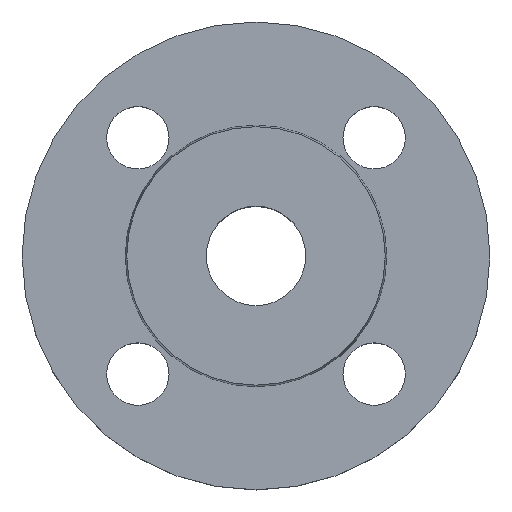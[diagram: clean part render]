
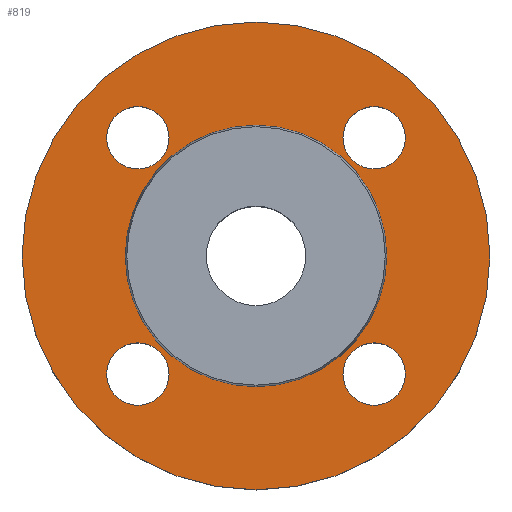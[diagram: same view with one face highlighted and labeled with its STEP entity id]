
A CAD part, top view. The second image highlights one B-rep face of the part: STEP entity #819.
In plain terms, the highlighted planar face has unit normal (0, 0, 1).
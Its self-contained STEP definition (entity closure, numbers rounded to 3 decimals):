
#5 = CIRCLE ( 'NONE', #367, 7. ) ;
#13 = CIRCLE ( 'NONE', #288, 7. ) ;
#30 = EDGE_LOOP ( 'NONE', ( #295, #296 ) ) ;
#56 = CARTESIAN_POINT ( 'NONE',  ( -33.517, 26.517, -2. ) ) ;
#71 = AXIS2_PLACEMENT_3D ( 'NONE', #694, #695, #698 ) ;
#85 = PLANE ( 'NONE',  #822 ) ;
#88 = FACE_OUTER_BOUND ( 'NONE', #30, .T. ) ;
#89 = FACE_BOUND ( 'NONE', #132, .T. ) ;
#90 = FACE_BOUND ( 'NONE', #443, .T. ) ;
#91 = FACE_BOUND ( 'NONE', #515, .T. ) ;
#94 = VERTEX_POINT ( 'NONE', #582 ) ;
#97 = FACE_BOUND ( 'NONE', #227, .T. ) ;
#98 = FACE_BOUND ( 'NONE', #401, .T. ) ;
#132 = EDGE_LOOP ( 'NONE', ( #291, #292 ) ) ;
#142 = VERTEX_POINT ( 'NONE', #597 ) ;
#149 = AXIS2_PLACEMENT_3D ( 'NONE', #753, #754, #755 ) ;
#170 = EDGE_CURVE ( 'NONE', #519, #531, #353, .T. ) ;
#189 = EDGE_CURVE ( 'NONE', #142, #502, #667, .T. ) ;
#227 = EDGE_LOOP ( 'NONE', ( #243, #244 ) ) ;
#236 = ORIENTED_EDGE ( 'NONE', *, *, #614, .T. ) ;
#237 = ORIENTED_EDGE ( 'NONE', *, *, #248, .T. ) ;
#239 = VERTEX_POINT ( 'NONE', #671 ) ;
#243 = ORIENTED_EDGE ( 'NONE', *, *, #364, .T. ) ;
#244 = ORIENTED_EDGE ( 'NONE', *, *, #670, .T. ) ;
#247 = ORIENTED_EDGE ( 'NONE', *, *, #189, .T. ) ;
#248 = EDGE_CURVE ( 'NONE', #480, #460, #13, .T. ) ;
#249 = EDGE_CURVE ( 'NONE', #531, #519, #425, .T. ) ;
#252 = EDGE_CURVE ( 'NONE', #416, #504, #445, .T. ) ;
#267 = DIRECTION ( 'NONE',  ( -1., 0., 0. ) ) ;
#269 = DIRECTION ( 'NONE',  ( 0., 0., -1. ) ) ;
#270 = CARTESIAN_POINT ( 'NONE',  ( 0., 0., -2. ) ) ;
#280 = ORIENTED_EDGE ( 'NONE', *, *, #442, .T. ) ;
#285 = DIRECTION ( 'NONE',  ( 1., 0., 0. ) ) ;
#286 = ORIENTED_EDGE ( 'NONE', *, *, #441, .T. ) ;
#287 = DIRECTION ( 'NONE',  ( 0., 0., -1. ) ) ;
#288 = AXIS2_PLACEMENT_3D ( 'NONE', #678, #679, #680 ) ;
#289 = CARTESIAN_POINT ( 'NONE',  ( -26.517, -26.517, -2. ) ) ;
#290 = ORIENTED_EDGE ( 'NONE', *, *, #447, .T. ) ;
#291 = ORIENTED_EDGE ( 'NONE', *, *, #249, .T. ) ;
#292 = ORIENTED_EDGE ( 'NONE', *, *, #170, .T. ) ;
#295 = ORIENTED_EDGE ( 'NONE', *, *, #252, .F. ) ;
#296 = ORIENTED_EDGE ( 'NONE', *, *, #712, .F. ) ;
#332 = CIRCLE ( 'NONE', #735, 7. ) ;
#336 = DIRECTION ( 'NONE',  ( 1., 0., 0. ) ) ;
#338 = CARTESIAN_POINT ( 'NONE',  ( 26.517, -26.517, -2. ) ) ;
#339 = DIRECTION ( 'NONE',  ( 0., 0., -1. ) ) ;
#348 = AXIS2_PLACEMENT_3D ( 'NONE', #270, #269, #267 ) ;
#353 = CIRCLE ( 'NONE', #453, 29.353 ) ;
#356 = AXIS2_PLACEMENT_3D ( 'NONE', #513, #797, #488 ) ;
#364 = EDGE_CURVE ( 'NONE', #239, #522, #689, .T. ) ;
#365 = CARTESIAN_POINT ( 'NONE',  ( 33.517, -26.517, -2. ) ) ;
#367 = AXIS2_PLACEMENT_3D ( 'NONE', #289, #287, #285 ) ;
#368 = CARTESIAN_POINT ( 'NONE',  ( 19.517, 26.517, -2. ) ) ;
#383 = CARTESIAN_POINT ( 'NONE',  ( 19.517, -26.517, -2. ) ) ;
#391 = AXIS2_PLACEMENT_3D ( 'NONE', #338, #339, #336 ) ;
#401 = EDGE_LOOP ( 'NONE', ( #236, #237 ) ) ;
#407 = CARTESIAN_POINT ( 'NONE',  ( -52.5, 0., -2. ) ) ;
#416 = VERTEX_POINT ( 'NONE', #801 ) ;
#419 = CIRCLE ( 'NONE', #391, 7. ) ;
#425 = CIRCLE ( 'NONE', #526, 29.353 ) ;
#427 = CARTESIAN_POINT ( 'NONE',  ( 29.353, 0., -2. ) ) ;
#437 = CARTESIAN_POINT ( 'NONE',  ( -33.517, -26.517, -2. ) ) ;
#441 = EDGE_CURVE ( 'NONE', #94, #458, #809, .T. ) ;
#442 = EDGE_CURVE ( 'NONE', #502, #142, #332, .T. ) ;
#443 = EDGE_LOOP ( 'NONE', ( #286, #290 ) ) ;
#445 = CIRCLE ( 'NONE', #71, 52.5 ) ;
#447 = EDGE_CURVE ( 'NONE', #458, #94, #477, .T. ) ;
#453 = AXIS2_PLACEMENT_3D ( 'NONE', #624, #625, #626 ) ;
#458 = VERTEX_POINT ( 'NONE', #368 ) ;
#460 = VERTEX_POINT ( 'NONE', #365 ) ;
#477 = CIRCLE ( 'NONE', #823, 7. ) ;
#480 = VERTEX_POINT ( 'NONE', #383 ) ;
#488 = DIRECTION ( 'NONE',  ( 1., 0., 0. ) ) ;
#502 = VERTEX_POINT ( 'NONE', #56 ) ;
#504 = VERTEX_POINT ( 'NONE', #407 ) ;
#513 = CARTESIAN_POINT ( 'NONE',  ( 26.517, 26.517, -2. ) ) ;
#515 = EDGE_LOOP ( 'NONE', ( #247, #280 ) ) ;
#518 = AXIS2_PLACEMENT_3D ( 'NONE', #629, #632, #633 ) ;
#519 = VERTEX_POINT ( 'NONE', #427 ) ;
#522 = VERTEX_POINT ( 'NONE', #437 ) ;
#526 = AXIS2_PLACEMENT_3D ( 'NONE', #681, #683, #684 ) ;
#531 = VERTEX_POINT ( 'NONE', #659 ) ;
#582 = CARTESIAN_POINT ( 'NONE',  ( 33.517, 26.517, -2. ) ) ;
#592 = CIRCLE ( 'NONE', #348, 52.5 ) ;
#597 = CARTESIAN_POINT ( 'NONE',  ( -19.517, 26.517, -2. ) ) ;
#614 = EDGE_CURVE ( 'NONE', #460, #480, #419, .T. ) ;
#624 = CARTESIAN_POINT ( 'NONE',  ( 0., 0., -2. ) ) ;
#625 = DIRECTION ( 'NONE',  ( 0., 0., -1. ) ) ;
#626 = DIRECTION ( 'NONE',  ( -1., 0., 0. ) ) ;
#629 = CARTESIAN_POINT ( 'NONE',  ( -26.517, 26.517, -2. ) ) ;
#632 = DIRECTION ( 'NONE',  ( 0., 0., -1. ) ) ;
#633 = DIRECTION ( 'NONE',  ( 1., 0., 0. ) ) ;
#659 = CARTESIAN_POINT ( 'NONE',  ( -29.353, 0., -2. ) ) ;
#667 = CIRCLE ( 'NONE', #518, 7. ) ;
#670 = EDGE_CURVE ( 'NONE', #522, #239, #5, .T. ) ;
#671 = CARTESIAN_POINT ( 'NONE',  ( -19.517, -26.517, -2. ) ) ;
#678 = CARTESIAN_POINT ( 'NONE',  ( 26.517, -26.517, -2. ) ) ;
#679 = DIRECTION ( 'NONE',  ( 0., 0., -1. ) ) ;
#680 = DIRECTION ( 'NONE',  ( 1., 0., 0. ) ) ;
#681 = CARTESIAN_POINT ( 'NONE',  ( 0., 0., -2. ) ) ;
#682 = DIRECTION ( 'NONE',  ( 1., 0., 0. ) ) ;
#683 = DIRECTION ( 'NONE',  ( 0., 0., -1. ) ) ;
#684 = DIRECTION ( 'NONE',  ( -1., 0., 0. ) ) ;
#689 = CIRCLE ( 'NONE', #149, 7. ) ;
#691 = DIRECTION ( 'NONE',  ( 0., 0., 1. ) ) ;
#694 = CARTESIAN_POINT ( 'NONE',  ( 0., 0., -2. ) ) ;
#695 = DIRECTION ( 'NONE',  ( 0., 0., -1. ) ) ;
#697 = CARTESIAN_POINT ( 'NONE',  ( 29.353, 0., -2. ) ) ;
#698 = DIRECTION ( 'NONE',  ( -1., 0., 0. ) ) ;
#712 = EDGE_CURVE ( 'NONE', #504, #416, #592, .T. ) ;
#735 = AXIS2_PLACEMENT_3D ( 'NONE', #790, #786, #791 ) ;
#753 = CARTESIAN_POINT ( 'NONE',  ( -26.517, -26.517, -2. ) ) ;
#754 = DIRECTION ( 'NONE',  ( 0., 0., -1. ) ) ;
#755 = DIRECTION ( 'NONE',  ( 1., 0., 0. ) ) ;
#786 = DIRECTION ( 'NONE',  ( 0., 0., -1. ) ) ;
#788 = DIRECTION ( 'NONE',  ( 0., 0., -1. ) ) ;
#789 = DIRECTION ( 'NONE',  ( 1., 0., 0. ) ) ;
#790 = CARTESIAN_POINT ( 'NONE',  ( -26.517, 26.517, -2. ) ) ;
#791 = DIRECTION ( 'NONE',  ( 1., 0., 0. ) ) ;
#797 = DIRECTION ( 'NONE',  ( 0., 0., -1. ) ) ;
#798 = CARTESIAN_POINT ( 'NONE',  ( 26.517, 26.517, -2. ) ) ;
#801 = CARTESIAN_POINT ( 'NONE',  ( 52.5, 0., -2. ) ) ;
#809 = CIRCLE ( 'NONE', #356, 7. ) ;
#819 = ADVANCED_FACE ( 'NONE', ( #98, #97, #91, #90, #89, #88 ), #85, .T. ) ;
#822 = AXIS2_PLACEMENT_3D ( 'NONE', #697, #691, #682 ) ;
#823 = AXIS2_PLACEMENT_3D ( 'NONE', #798, #788, #789 ) ;
